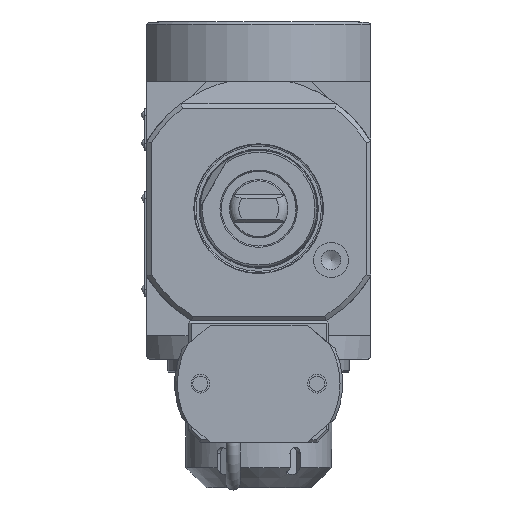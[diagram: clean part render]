
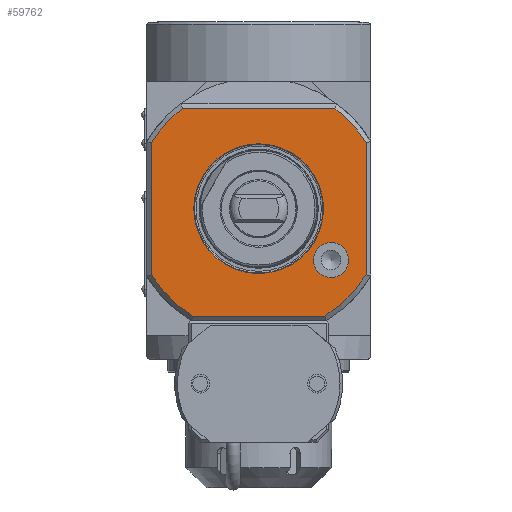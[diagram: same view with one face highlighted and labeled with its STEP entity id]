
A CAD part, left-side view. The second image highlights one B-rep face of the part: STEP entity #59762.
In plain terms, the highlighted planar face has unit normal (-1, 0, 0) as drawn and (0, 1, 0) by its records, which use the part's own axes.
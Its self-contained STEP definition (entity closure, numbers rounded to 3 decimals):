
#24928=CIRCLE('',#58197,7.5);
#24929=CIRCLE('',#58199,54.);
#24930=CIRCLE('',#58200,54.);
#24931=CIRCLE('',#58201,54.);
#24932=CIRCLE('',#58202,54.);
#24933=CIRCLE('',#58203,27.8);
#28608=ORIENTED_EDGE('',*,*,#34602,.F.);
#28609=ORIENTED_EDGE('',*,*,#34603,.T.);
#28610=ORIENTED_EDGE('',*,*,#34604,.T.);
#28611=ORIENTED_EDGE('',*,*,#34605,.T.);
#28612=ORIENTED_EDGE('',*,*,#34606,.F.);
#28613=ORIENTED_EDGE('',*,*,#34607,.F.);
#28614=ORIENTED_EDGE('',*,*,#34608,.F.);
#28615=ORIENTED_EDGE('',*,*,#34609,.F.);
#28616=ORIENTED_EDGE('',*,*,#34601,.F.);
#28617=ORIENTED_EDGE('',*,*,#34610,.F.);
#30089=VECTOR('',#41217,1.);
#30090=VECTOR('',#41220,1.);
#30091=VECTOR('',#41223,1.);
#30092=VECTOR('',#41226,1.);
#31235=LINE('',#53372,#30089);
#31236=LINE('',#53376,#30090);
#31237=LINE('',#53380,#30091);
#31238=LINE('',#53384,#30092);
#32628=VERTEX_POINT('',#53367);
#32629=VERTEX_POINT('',#53370);
#32630=VERTEX_POINT('',#53371);
#32631=VERTEX_POINT('',#53373);
#32632=VERTEX_POINT('',#53375);
#32633=VERTEX_POINT('',#53377);
#32634=VERTEX_POINT('',#53379);
#32635=VERTEX_POINT('',#53381);
#32636=VERTEX_POINT('',#53383);
#32637=VERTEX_POINT('',#53386);
#34601=EDGE_CURVE('',#32628,#32628,#24928,.T.);
#34602=EDGE_CURVE('',#32629,#32630,#31235,.T.);
#34603=EDGE_CURVE('',#32629,#32631,#24929,.T.);
#34604=EDGE_CURVE('',#32631,#32632,#31236,.T.);
#34605=EDGE_CURVE('',#32632,#32633,#24930,.T.);
#34606=EDGE_CURVE('',#32634,#32633,#31237,.T.);
#34607=EDGE_CURVE('',#32635,#32634,#24931,.T.);
#34608=EDGE_CURVE('',#32636,#32635,#31238,.T.);
#34609=EDGE_CURVE('',#32630,#32636,#24932,.T.);
#34610=EDGE_CURVE('',#32637,#32637,#24933,.T.);
#35964=EDGE_LOOP('',(#28608,#28609,#28610,#28611,#28612,#28613,#28614,#28615));
#35965=EDGE_LOOP('',(#28616));
#35966=EDGE_LOOP('',(#28617));
#37224=FACE_BOUND('',#35964,.T.);
#37225=FACE_BOUND('',#35965,.T.);
#37226=FACE_BOUND('',#35966,.T.);
#41213=DIRECTION('',(0.,1.,0.));
#41214=DIRECTION('',(-7.5,0.,0.));
#41215=DIRECTION('',(0.,1.,0.));
#41216=DIRECTION('',(1.,0.,0.));
#41217=DIRECTION('',(0.,0.,56.569));
#41218=DIRECTION('',(0.,1.,0.));
#41219=DIRECTION('',(38.764,0.,-37.594));
#41220=DIRECTION('',(-65.33,0.,0.));
#41221=DIRECTION('',(0.,1.,0.));
#41222=DIRECTION('',(-38.764,0.,-37.594));
#41223=DIRECTION('',(0.,0.,-56.569));
#41224=DIRECTION('',(0.,-1.,0.));
#41225=DIRECTION('',(-36.907,0.,39.419));
#41226=DIRECTION('',(-56.569,0.,0.));
#41227=DIRECTION('',(0.,-1.,0.));
#41228=DIRECTION('',(36.907,0.,39.419));
#41229=DIRECTION('',(0.,1.,0.));
#41230=DIRECTION('',(-27.8,0.,0.));
#53367=CARTESIAN_POINT('',(-336.5,15.,22.));
#53368=CARTESIAN_POINT('',(-329.,15.,22.));
#53369=CARTESIAN_POINT('',(-393.332,15.,-45.));
#53370=CARTESIAN_POINT('',(-314.,15.,-28.284));
#53371=CARTESIAN_POINT('',(-314.,15.,28.284));
#53372=CARTESIAN_POINT('',(-314.,15.,-28.284));
#53373=CARTESIAN_POINT('',(-327.335,15.,-43.));
#53374=CARTESIAN_POINT('',(-360.,15.,0.));
#53375=CARTESIAN_POINT('',(-392.665,15.,-43.));
#53376=CARTESIAN_POINT('',(-327.335,15.,-43.));
#53377=CARTESIAN_POINT('',(-406.,15.,-28.284));
#53378=CARTESIAN_POINT('',(-360.,15.,0.));
#53379=CARTESIAN_POINT('',(-406.,15.,28.284));
#53380=CARTESIAN_POINT('',(-406.,15.,28.284));
#53381=CARTESIAN_POINT('',(-388.284,15.,46.));
#53382=CARTESIAN_POINT('',(-360.,15.,0.));
#53383=CARTESIAN_POINT('',(-331.716,15.,46.));
#53384=CARTESIAN_POINT('',(-331.716,15.,46.));
#53385=CARTESIAN_POINT('',(-360.,15.,0.));
#53386=CARTESIAN_POINT('',(-387.8,15.,0.));
#53387=CARTESIAN_POINT('',(-360.,15.,0.));
#58197=AXIS2_PLACEMENT_3D('',#53368,#41213,#41214);
#58198=AXIS2_PLACEMENT_3D('',#53369,#41215,#41216);
#58199=AXIS2_PLACEMENT_3D('',#53374,#41218,#41219);
#58200=AXIS2_PLACEMENT_3D('',#53378,#41221,#41222);
#58201=AXIS2_PLACEMENT_3D('',#53382,#41224,#41225);
#58202=AXIS2_PLACEMENT_3D('',#53385,#41227,#41228);
#58203=AXIS2_PLACEMENT_3D('',#53387,#41229,#41230);
#58880=PLANE('',#58198);
#59762=ADVANCED_FACE('',(#37224,#37225,#37226),#58880,.T.);
